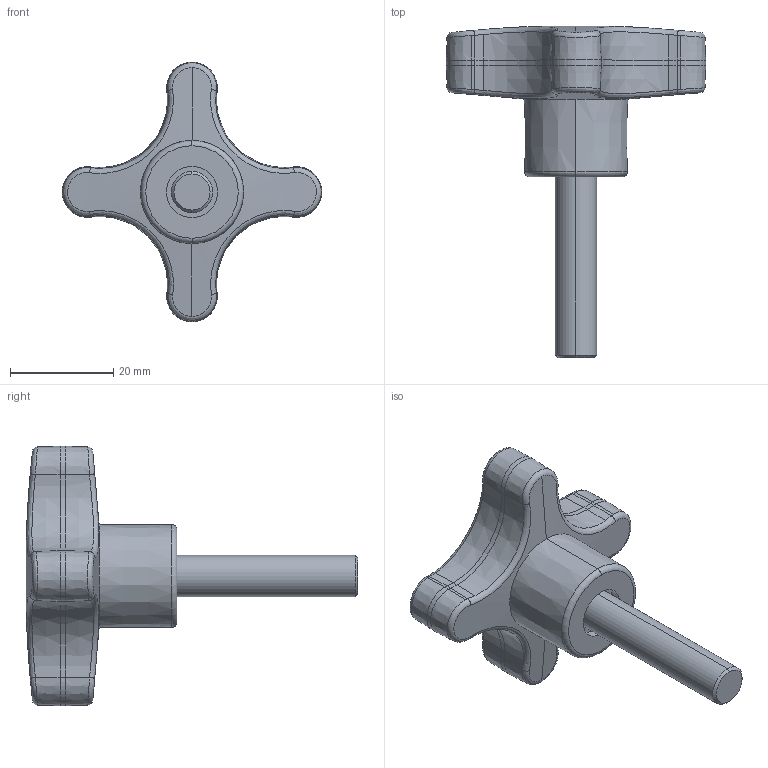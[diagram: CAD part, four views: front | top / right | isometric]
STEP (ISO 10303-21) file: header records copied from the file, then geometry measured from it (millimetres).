
FILE_DESCRIPTION (( 'STEP AP214' ), '1' );
FILE_NAME ('47005805557.STEP', '2026-07-17T12:26:10', ( '' ), ( '' ), 'SwSTEP 2.0', 'SolidWorks 2024', '' );
FILE_SCHEMA (( 'AUTOMOTIVE_DESIGN' ));
Length unit declared in the file: millimetre
Products named in the file (1): 47005805557
Bounding box: 50.26 x 64.15 x 50.26 mm (x, y, z)
Volume: 18933.8 mm3; surface area: 5778.4 mm2
Topology: 1 solids, 1 shells, 81 faces, 177 edges, 100 vertices
Faces by surface type: cone 38, cylinder 19, bspline 16, plane 4, torus 2, sphere 2
Entity records: 5591 total; most frequent: CARTESIAN_POINT 3031, ORIENTED_EDGE 354, DIRECTION 329, EDGE_CURVE 177, AXIS2_PLACEMENT_3D 136, VERTEX_POINT 100, EDGE_LOOP 83, UNCERTAINTY_MEASURE_WITH_UNIT 83
